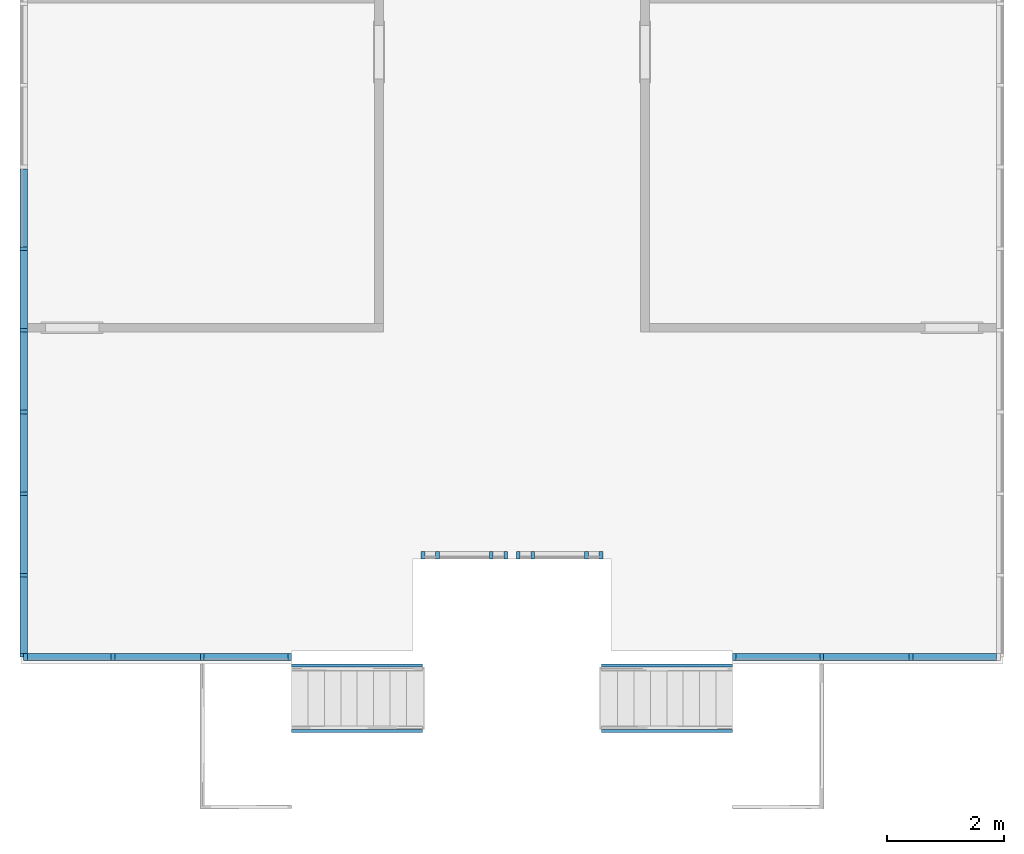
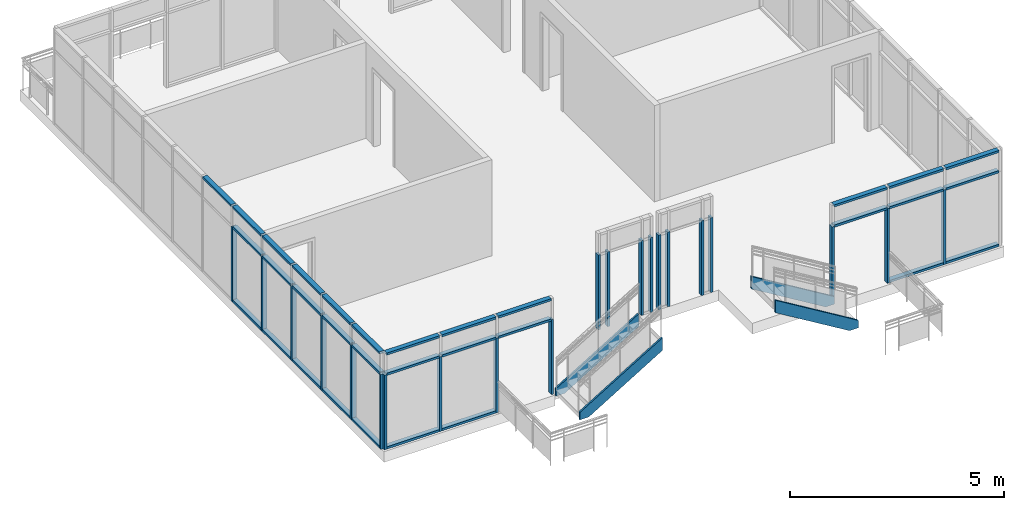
# One storey, part 1 of 11: 57 members, 6 elements without a shape of their own.
"""IFC2X3 building model written with IfcOpenShell, lengths in feet."""

from ifc_helpers import new_model, entity, si_unit, converted_unit, derived_unit, direction, frame, origin, origin_2d_with_axis, place, context, subcontext, project, spatial, polyline, rectangle, outline, extrude, source, transform, mapped, material, type_object, type_shapes, element, aggregate, save


model = new_model("IFC2X3")

# Units and contexts
model_context = context("Model", 3, precision=0.0001, world=origin(), true_north=direction((6.12303176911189e-17, 1.0)))
body_context = subcontext(model_context, "Body", "Model", "MODEL_VIEW")
ifc_project = project(units=[converted_unit("LENGTHUNIT", "FOOT", entity("IfcRatioMeasure", 0.3048), si_unit("LENGTHUNIT", "METRE"), dimensions=[1, 0, 0, 0, 0, 0, 0]), converted_unit("AREAUNIT", "SQUARE FOOT", entity("IfcRatioMeasure", 0.09290304), si_unit("AREAUNIT", "SQUARE_METRE"), dimensions=[2, 0, 0, 0, 0, 0, 0]), converted_unit("VOLUMEUNIT", "CUBIC FOOT", entity("IfcRatioMeasure", 0.028316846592), si_unit("VOLUMEUNIT", "CUBIC_METRE"), dimensions=[3, 0, 0, 0, 0, 0, 0]), converted_unit("PLANEANGLEUNIT", "DEGREE", entity("IfcRatioMeasure", 0.0174532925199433), si_unit("PLANEANGLEUNIT", "RADIAN"), dimensions=[0, 0, 0, 0, 0, 0, 0]), si_unit("MASSUNIT", "GRAM", prefix="KILO"), derived_unit("MASSDENSITYUNIT", [(si_unit("MASSUNIT", "GRAM", prefix="KILO"), 1), (si_unit("LENGTHUNIT", "METRE"), -3)]), si_unit("TIMEUNIT", "SECOND"), si_unit("FREQUENCYUNIT", "HERTZ"), si_unit("THERMODYNAMICTEMPERATUREUNIT", "DEGREE_CELSIUS"), derived_unit("THERMALTRANSMITTANCEUNIT", [(si_unit("MASSUNIT", "GRAM", prefix="KILO"), 1), (si_unit("THERMODYNAMICTEMPERATUREUNIT", "KELVIN"), -1), (si_unit("TIMEUNIT", "SECOND"), -3)]), derived_unit("VOLUMETRICFLOWRATEUNIT", [(si_unit("LENGTHUNIT", "METRE"), 3), (si_unit("TIMEUNIT", "SECOND"), -1)]), si_unit("ELECTRICCURRENTUNIT", "AMPERE"), si_unit("ELECTRICVOLTAGEUNIT", "VOLT"), si_unit("POWERUNIT", "WATT"), si_unit("FORCEUNIT", "NEWTON"), si_unit("ILLUMINANCEUNIT", "LUX"), si_unit("LUMINOUSFLUXUNIT", "LUMEN"), si_unit("LUMINOUSINTENSITYUNIT", "CANDELA"), derived_unit("USERDEFINED", [(si_unit("MASSUNIT", "GRAM", prefix="KILO"), -1), (si_unit("LENGTHUNIT", "METRE"), -2), (si_unit("TIMEUNIT", "SECOND"), 3), (si_unit("LUMINOUSFLUXUNIT", "LUMEN"), 1)]), derived_unit("LINEARVELOCITYUNIT", [(si_unit("LENGTHUNIT", "METRE"), 1), (si_unit("TIMEUNIT", "SECOND"), -1)]), si_unit("PRESSUREUNIT", "PASCAL"), derived_unit("USERDEFINED", [(si_unit("LENGTHUNIT", "METRE"), -2), (si_unit("MASSUNIT", "GRAM", prefix="KILO"), 1), (si_unit("TIMEUNIT", "SECOND"), -2)])], contexts=[model_context])

# Site, building, storey
site_placement = place(None, origin())
site = spatial("IfcSite", under=ifc_project, at=site_placement, Name="Default", CompositionType="ELEMENT")
building_placement = place(site_placement, origin())
building = spatial("IfcBuilding", under=site, at=building_placement, CompositionType="ELEMENT")
storey_placement = place(building_placement, frame((0.0, 0.0, 40.0)))
storey = spatial("IfcBuildingStorey", under=building, at=storey_placement, Name="L 7", CompositionType="ELEMENT", Elevation=39.9999999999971)

# Stair, members
stair_placement = place(storey_placement, origin())
stair = element("IfcStair", 1, at=stair_placement, inside=storey, Name="Assembled Stair:Stair", ObjectType="Assembled Stair:7\" max riser 11\" tread", ShapeType="NOTDEFINED")
member_type_1 = type_object("IfcMemberType", Name="Stringer:Stringer - 2\" Width", PredefinedType="STRINGER")
member_1_placement = place(stair_placement, origin())
member_1 = element("IfcMember", 2, at=member_1_placement, type_object=member_type_1, Name="Assembled Stair:Stair:191385 Stringer 1", ObjectType="Assembled Stair:7\" max riser 11\" tread", context=body_context, shape_type="SweptSolid", body=[
    extrude(outline(polyline([(-3.29811864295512, -0.519028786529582), (5.27689530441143, -0.519028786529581), (4.67083469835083, 0.480971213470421), (-2.99079942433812, 0.48097121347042), (-3.65881193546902, 0.0761151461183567), (-3.29811864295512, -0.519028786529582)])), frame((-43.2356053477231, -7.50364126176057, 1.96146201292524), z_axis=(0.0, 1.0, 0.0), x_axis=(0.855197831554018, 0.0, 0.518301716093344)), (0.0, 0.0, 1.0), 0.166666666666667),
])
member_2_placement = place(stair_placement, origin())
member_2 = element("IfcMember", 3, at=member_2_placement, type_object=member_type_1, Name="Assembled Stair:Stair:191385 Stringer 2", ObjectType="Assembled Stair:7\" max riser 11\" tread", context=body_context, shape_type="SweptSolid", body=[
    extrude(outline(polyline([(-3.29811864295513, -0.519028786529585), (5.27689530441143, -0.519028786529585), (4.67083469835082, 0.480971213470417), (-2.99079942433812, 0.480971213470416), (-3.65881193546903, 0.0761151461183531), (-3.29811864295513, -0.519028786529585)])), frame((-43.2356053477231, -11.1703079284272, 1.96146201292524), z_axis=(0.0, 1.0, 0.0), x_axis=(0.855197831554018, 0.0, 0.518301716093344)), (0.0, 0.0, 1.0), 0.166666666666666),
])
member_3_placement = place(stair_placement, origin())
member_3 = element("IfcMember", 4, at=member_3_placement, type_object=member_type_1, Name="Assembled Stair:Stair:191385 Stringer 3", ObjectType="Assembled Stair:7\" max riser 11\" tread", context=body_context, shape_type="SweptSolid", body=[
    extrude(outline(polyline([(-3.08955742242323, -1.96146201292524), (-2.30843697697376, -1.96146201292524), (4.24377591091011, 2.00957610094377), (4.24377591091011, 3.17889618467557), (-3.08955742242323, -1.26554825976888), (-3.08955742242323, -1.96146201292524)])), frame((-24.7480535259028, -7.50364126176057, 1.96146201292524), z_axis=(0.0, 1.0, 0.0), x_axis=(-1.0, 0.0, 0.0)), (0.0, 0.0, 1.0), 0.166666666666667),
])
member_4_placement = place(stair_placement, origin())
member_4 = element("IfcMember", 5, at=member_4_placement, type_object=member_type_1, Name="Assembled Stair:Stair:191385 Stringer 4", ObjectType="Assembled Stair:7\" max riser 11\" tread", context=body_context, shape_type="SweptSolid", body=[
    extrude(outline(polyline([(-3.08955742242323, -1.96146201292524), (-2.30843697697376, -1.96146201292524), (4.24377591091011, 2.00957610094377), (4.24377591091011, 3.17889618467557), (-3.08955742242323, -1.26554825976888), (-3.08955742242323, -1.96146201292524)])), frame((-24.7480535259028, -11.1703079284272, 1.96146201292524), z_axis=(0.0, 1.0, 0.0), x_axis=(-1.0, 0.0, 0.0)), (0.0, 0.0, 1.0), 0.166666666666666),
])
aggregate(stair, [member_1, member_2, member_3, member_4])

# Curtain wall, members
curtain_wall_type = type_object("IfcCurtainWallType", Name="Curtain Wall:Storefront 2", PredefinedType="NOTDEFINED")
curtain_wall_1_placement = place(storey_placement, frame((0.0, 0.0, -40.0)))
curtain_wall_1 = element("IfcCurtainWall", 6, at=curtain_wall_1_placement, inside=storey, type_object=curtain_wall_type, Name="Curtain Wall:Storefront 2", ObjectType="Curtain Wall:Storefront 2")
ifc_material = material(Name="Aluminum")
member_type_2 = type_object("IfcMemberType", Name="2.5\" x 5\" rectangular", PredefinedType="MEMBER")
shared_shape_1 = source(origin(), body_context, "Body", "SweptSolid", [
    extrude(rectangle(XDim=0.416666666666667, YDim=0.208333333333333, at=origin_2d_with_axis()), frame((-0.104166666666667, 0.0, -4.6875), z_axis=(0.0, 0.0, 1.0), x_axis=(0.0, -1.0, 0.0)), (0.0, 0.0, 1.0), 4.6875),
])
type_shapes(member_type_2, [shared_shape_1])
member_5_placement = place(storey_placement, frame((-61.1168294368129, -6.94114126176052, 9.0), z_axis=(-1.0, 0.0, 0.0), x_axis=(0.0, 0.0, 1.0)))
member_5 = element("IfcMember", 7, at=member_5_placement, type_object=member_type_2, material=ifc_material, Name="Rectangular Mullion:2.5\" x 5\" rectangular", ObjectType="2.5\" x 5\" rectangular", context=body_context, shape_type="MappedRepresentation", body=[
    mapped(shared_shape_1, transform((0.0, 0.0, 0.0), scale=1.0)),
])
member_6_placement = place(storey_placement, frame((-51.2209961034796, -6.94114126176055, 9.0), z_axis=(-1.0, 0.0, 0.0), x_axis=(0.0, 0.0, 1.0)))
member_6 = element("IfcMember", 8, at=member_6_placement, type_object=member_type_2, material=ifc_material, Name="Rectangular Mullion:2.5\" x 5\" rectangular", ObjectType="2.5\" x 5\" rectangular", context=body_context, shape_type="MappedRepresentation", body=[
    mapped(shared_shape_1, transform((0.0, 0.0, 0.0), scale=1.0)),
])

curtain_wall_2_placement = place(storey_placement, frame((0.0, 0.0, -40.0)))
curtain_wall_2 = element("IfcCurtainWall", 9, at=curtain_wall_2_placement, inside=storey, type_object=curtain_wall_type, Name="Curtain Wall:Storefront 2", ObjectType="Curtain Wall:Storefront 2")
member_7_placement = place(storey_placement, frame((-21.4501627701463, -6.94114126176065, 9.0), z_axis=(-1.0, 0.0, 0.0), x_axis=(0.0, 0.0, 1.0)))
member_7 = element("IfcMember", 10, at=member_7_placement, type_object=member_type_2, material=ifc_material, Name="Rectangular Mullion:2.5\" x 5\" rectangular", ObjectType="2.5\" x 5\" rectangular", context=body_context, shape_type="MappedRepresentation", body=[
    mapped(shared_shape_1, transform((0.0, 0.0, 0.0), scale=1.0)),
])
member_8_placement = place(storey_placement, frame((-11.5543294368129, -6.94114126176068, 9.0), z_axis=(-1.0, 0.0, 0.0), x_axis=(0.0, 0.0, 1.0)))
member_8 = element("IfcMember", 11, at=member_8_placement, type_object=member_type_2, material=ifc_material, Name="Rectangular Mullion:2.5\" x 5\" rectangular", ObjectType="2.5\" x 5\" rectangular", context=body_context, shape_type="MappedRepresentation", body=[
    mapped(shared_shape_1, transform((0.0, 0.0, 0.0), scale=1.0)),
])

# Member
member_type_3 = type_object("IfcMemberType", Name="2.5\" x 5\" rectangular", PredefinedType="MEMBER")
shared_shape_2 = source(origin(), body_context, "Body", "SweptSolid", [
    extrude(rectangle(XDim=0.416666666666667, YDim=0.208333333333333, at=origin_2d_with_axis()), frame((-0.104166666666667, 0.0, -4.6875), z_axis=(0.0, 0.0, 1.0), x_axis=(0.0, -1.0, 0.0)), (0.0, 0.0, 1.0), 4.6875),
])
type_shapes(member_type_3, [shared_shape_2])
member_9_placement = place(storey_placement, frame((-56.429329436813, -6.94114126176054, 0.0), z_axis=(1.0, 0.0, 0.0), x_axis=(0.0, 0.0, -1.0)))
member_9 = element("IfcMember", 12, at=member_9_placement, type_object=member_type_3, material=ifc_material, Name="Rectangular Mullion:2.5\" x 5\" rectangular", ObjectType="2.5\" x 5\" rectangular", context=body_context, shape_type="MappedRepresentation", body=[
    mapped(shared_shape_2, transform((0.0, 0.0, 0.0), scale=1.0)),
])

member_10_placement = place(storey_placement, frame((-6.86682943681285, -6.94114126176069, 0.0), z_axis=(1.0, 0.0, 0.0), x_axis=(0.0, 0.0, -1.0)))
member_10 = element("IfcMember", 13, at=member_10_placement, type_object=member_type_3, material=ifc_material, Name="Rectangular Mullion:2.5\" x 5\" rectangular", ObjectType="2.5\" x 5\" rectangular", context=body_context, shape_type="MappedRepresentation", body=[
    mapped(shared_shape_2, transform((0.0, 0.0, 0.0), scale=1.0)),
])

member_type_4 = type_object("IfcMemberType", Name="2.5\" x 5\" rectangular", PredefinedType="MEMBER")
shared_shape_3 = source(origin(), body_context, "Body", "SweptSolid", [
    extrude(rectangle(XDim=0.416666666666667, YDim=0.208333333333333, at=origin_2d_with_axis()), frame((0.0, 0.0, -4.6875), z_axis=(0.0, 0.0, 1.0), x_axis=(0.0, -1.0, 0.0)), (0.0, 0.0, 1.0), 4.6875),
])
type_shapes(member_type_4, [shared_shape_3])
member_11_placement = place(storey_placement, frame((-51.2209961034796, -6.94114126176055, 7.0), z_axis=(-1.0, 0.0, 0.0), x_axis=(0.0, 0.0, 1.0)))
member_11 = element("IfcMember", 14, at=member_11_placement, type_object=member_type_4, material=ifc_material, Name="Rectangular Mullion:2.5\" x 5\" rectangular", ObjectType="2.5\" x 5\" rectangular", context=body_context, shape_type="MappedRepresentation", body=[
    mapped(shared_shape_3, transform((0.0, 0.0, 0.0), scale=1.0)),
])

member_12_placement = place(storey_placement, frame((-61.1168294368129, -6.94114126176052, 7.0), z_axis=(-1.0, 0.0, 0.0), x_axis=(0.0, 0.0, 1.0)))
member_12 = element("IfcMember", 15, at=member_12_placement, type_object=member_type_4, material=ifc_material, Name="Rectangular Mullion:2.5\" x 5\" rectangular", ObjectType="2.5\" x 5\" rectangular", context=body_context, shape_type="MappedRepresentation", body=[
    mapped(shared_shape_3, transform((0.0, 0.0, 0.0), scale=1.0)),
])

member_13_placement = place(storey_placement, frame((-11.5543294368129, -6.94114126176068, 7.0), z_axis=(-1.0, 0.0, 0.0), x_axis=(0.0, 0.0, 1.0)))
member_13 = element("IfcMember", 16, at=member_13_placement, type_object=member_type_4, material=ifc_material, Name="Rectangular Mullion:2.5\" x 5\" rectangular", ObjectType="2.5\" x 5\" rectangular", context=body_context, shape_type="MappedRepresentation", body=[
    mapped(shared_shape_3, transform((0.0, 0.0, 0.0), scale=1.0)),
])

member_14_placement = place(storey_placement, frame((-21.4501627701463, -6.94114126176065, 7.0), z_axis=(-1.0, 0.0, 0.0), x_axis=(0.0, 0.0, 1.0)))
member_14 = element("IfcMember", 17, at=member_14_placement, type_object=member_type_4, material=ifc_material, Name="Rectangular Mullion:2.5\" x 5\" rectangular", ObjectType="2.5\" x 5\" rectangular", context=body_context, shape_type="MappedRepresentation", body=[
    mapped(shared_shape_3, transform((0.0, 0.0, 0.0), scale=1.0)),
])

member_type_5 = type_object("IfcMemberType", Name="2.5\" x 5\" rectangular", PredefinedType="MEMBER")
shared_shape_4 = source(origin(), body_context, "Body", "SweptSolid", [
    extrude(rectangle(XDim=0.416666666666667, YDim=0.208333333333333, at=origin_2d_with_axis()), frame((-0.104166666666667, 0.0, -4.79166666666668), z_axis=(0.0, 0.0, 1.0), x_axis=(0.0, -1.0, 0.0)), (0.0, 0.0, 1.0), 4.79166666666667),
])
type_shapes(member_type_5, [shared_shape_4])
member_15_placement = place(storey_placement, frame((-56.2209961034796, -6.94114126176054, 9.0), z_axis=(-1.0, 0.0, 0.0), x_axis=(0.0, 0.0, 1.0)))
member_15 = element("IfcMember", 18, at=member_15_placement, type_object=member_type_5, material=ifc_material, Name="Rectangular Mullion:2.5\" x 5\" rectangular", ObjectType="2.5\" x 5\" rectangular", context=body_context, shape_type="MappedRepresentation", body=[
    mapped(shared_shape_4, transform((0.0, 0.0, 0.0), scale=1.0)),
])

member_16_placement = place(storey_placement, frame((-16.554329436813, -6.94114126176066, 9.0), z_axis=(-1.0, 0.0, 0.0), x_axis=(0.0, 0.0, 1.0)))
member_16 = element("IfcMember", 19, at=member_16_placement, type_object=member_type_5, material=ifc_material, Name="Rectangular Mullion:2.5\" x 5\" rectangular", ObjectType="2.5\" x 5\" rectangular", context=body_context, shape_type="MappedRepresentation", body=[
    mapped(shared_shape_4, transform((0.0, 0.0, 0.0), scale=1.0)),
])

member_type_6 = type_object("IfcMemberType", Name="2.5\" x 5\" rectangular", PredefinedType="MEMBER")
shared_shape_5 = source(origin(), body_context, "Body", "SweptSolid", [
    extrude(rectangle(XDim=0.416666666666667, YDim=0.208333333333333, at=origin_2d_with_axis()), frame((-0.104166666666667, 0.0, -7.0), z_axis=(0.0, 0.0, 1.0), x_axis=(0.0, -1.0, 0.0)), (0.0, 0.0, 1.0), 7.0),
])
type_shapes(member_type_6, [shared_shape_5])
member_17_placement = place(storey_placement, frame((-61.3251627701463, -6.94114126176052, 0.0), z_axis=(0.0, 0.0, -1.0), x_axis=(-1.0, 0.0, 0.0)))
member_17 = element("IfcMember", 20, at=member_17_placement, type_object=member_type_6, material=ifc_material, Name="Rectangular Mullion:2.5\" x 5\" rectangular", ObjectType="2.5\" x 5\" rectangular", context=body_context, shape_type="MappedRepresentation", body=[
    mapped(shared_shape_5, transform((0.0, 0.0, 0.0), scale=1.0)),
])

# Curtain wall, member
curtain_wall_3_placement = place(storey_placement, frame((0.0, 0.0, -40.0)))
curtain_wall_3 = element("IfcCurtainWall", 21, at=curtain_wall_3_placement, inside=storey, type_object=curtain_wall_type, Name="Curtain Wall:Storefront 2", ObjectType="Curtain Wall:Storefront 2")
member_18_placement = place(storey_placement, frame((-39.0751627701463, -1.23280792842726, 0.0), z_axis=(0.0, 0.0, -1.0), x_axis=(-1.0, 0.0, 0.0)))
member_18 = element("IfcMember", 22, at=member_18_placement, type_object=member_type_6, material=ifc_material, Name="Rectangular Mullion:2.5\" x 5\" rectangular", ObjectType="2.5\" x 5\" rectangular", context=body_context, shape_type="MappedRepresentation", body=[
    mapped(shared_shape_5, transform((0.0, 0.0, 0.0), scale=1.0)),
])

curtain_wall_4_placement = place(storey_placement, frame((0.0, 0.0, -40.0)))
curtain_wall_4 = element("IfcCurtainWall", 23, at=curtain_wall_4_placement, inside=storey, type_object=curtain_wall_type, Name="Curtain Wall:Storefront 2", ObjectType="Curtain Wall:Storefront 2")
member_19_placement = place(storey_placement, frame((-33.7418294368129, -1.23280792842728, 0.0), z_axis=(0.0, 0.0, -1.0), x_axis=(-1.0, 0.0, 0.0)))
member_19 = element("IfcMember", 24, at=member_19_placement, type_object=member_type_6, material=ifc_material, Name="Rectangular Mullion:2.5\" x 5\" rectangular", ObjectType="2.5\" x 5\" rectangular", context=body_context, shape_type="MappedRepresentation", body=[
    mapped(shared_shape_5, transform((0.0, 0.0, 0.0), scale=1.0)),
])

# Member
member_type_7 = type_object("IfcMemberType", Name="2.5\" x 5\" rectangular", PredefinedType="MEMBER")
shared_shape_6 = source(origin(), body_context, "Body", "SweptSolid", [
    extrude(rectangle(XDim=0.416666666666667, YDim=0.208333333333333, at=origin_2d_with_axis()), frame((-0.104166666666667, 0.0, -7.0), z_axis=(0.0, 0.0, 1.0), x_axis=(0.0, -1.0, 0.0)), (0.0, 0.0, 1.0), 7.0),
])
type_shapes(member_type_7, [shared_shape_6])
member_20_placement = place(storey_placement, frame((-34.2418294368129, -1.23280792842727, 7.0)))
member_20 = element("IfcMember", 25, at=member_20_placement, type_object=member_type_7, material=ifc_material, Name="Rectangular Mullion:2.5\" x 5\" rectangular", ObjectType="2.5\" x 5\" rectangular", context=body_context, shape_type="MappedRepresentation", body=[
    mapped(shared_shape_6, transform((0.0, 0.0, 0.0), scale=1.0)),
])

member_21_placement = place(storey_placement, frame((-28.9084961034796, -1.23280792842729, 7.0)))
member_21 = element("IfcMember", 26, at=member_21_placement, type_object=member_type_7, material=ifc_material, Name="Rectangular Mullion:2.5\" x 5\" rectangular", ObjectType="2.5\" x 5\" rectangular", context=body_context, shape_type="MappedRepresentation", body=[
    mapped(shared_shape_6, transform((0.0, 0.0, 0.0), scale=1.0)),
])

# Curtain wall, member
curtain_wall_5_placement = place(storey_placement, frame((0.0, 0.0, -40.0)))
curtain_wall_5 = element("IfcCurtainWall", 27, at=curtain_wall_5_placement, inside=storey, type_object=curtain_wall_type, Name="Curtain Wall:Storefront 2", ObjectType="Curtain Wall:Storefront 2")
member_22_placement = place(storey_placement, frame((-61.3251627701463, -6.94114126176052, 7.0), z_axis=(0.0, 0.0, 1.0), x_axis=(0.0, -1.0, 0.0)))
member_22 = element("IfcMember", 28, at=member_22_placement, type_object=member_type_7, material=ifc_material, Name="Rectangular Mullion:2.5\" x 5\" rectangular", ObjectType="2.5\" x 5\" rectangular", context=body_context, shape_type="MappedRepresentation", body=[
    mapped(shared_shape_6, transform((0.0, 0.0, 0.0), scale=1.0)),
])

# Member
member_type_8 = type_object("IfcMemberType", Name="2.5\" x 5\" rectangular", PredefinedType="MEMBER")
shared_shape_7 = source(origin(), body_context, "Body", "SweptSolid", [
    extrude(rectangle(XDim=0.416666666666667, YDim=0.208333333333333, at=origin_2d_with_axis()), frame((0.0, 0.0, -4.79166666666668), z_axis=(0.0, 0.0, 1.0), x_axis=(0.0, -1.0, 0.0)), (0.0, 0.0, 1.0), 4.79166666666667),
])
type_shapes(member_type_8, [shared_shape_7])
member_23_placement = place(storey_placement, frame((-56.2209961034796, -6.94114126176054, 7.0), z_axis=(-1.0, 0.0, 0.0), x_axis=(0.0, 0.0, 1.0)))
member_23 = element("IfcMember", 29, at=member_23_placement, type_object=member_type_8, material=ifc_material, Name="Rectangular Mullion:2.5\" x 5\" rectangular", ObjectType="2.5\" x 5\" rectangular", context=body_context, shape_type="MappedRepresentation", body=[
    mapped(shared_shape_7, transform((0.0, 0.0, 0.0), scale=1.0)),
])

member_24_placement = place(storey_placement, frame((-16.554329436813, -6.94114126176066, 7.0), z_axis=(-1.0, 0.0, 0.0), x_axis=(0.0, 0.0, 1.0)))
member_24 = element("IfcMember", 30, at=member_24_placement, type_object=member_type_8, material=ifc_material, Name="Rectangular Mullion:2.5\" x 5\" rectangular", ObjectType="2.5\" x 5\" rectangular", context=body_context, shape_type="MappedRepresentation", body=[
    mapped(shared_shape_7, transform((0.0, 0.0, 0.0), scale=1.0)),
])

member_type_9 = type_object("IfcMemberType", Name="2.5\" x 5\" rectangular", PredefinedType="MEMBER")
shared_shape_8 = source(origin(), body_context, "Body", "SweptSolid", [
    extrude(rectangle(XDim=0.416666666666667, YDim=0.208333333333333, at=origin_2d_with_axis()), frame((0.0, 0.0, -7.0), z_axis=(0.0, 0.0, 1.0), x_axis=(0.0, -1.0, 0.0)), (0.0, 0.0, 1.0), 7.0),
])
type_shapes(member_type_9, [shared_shape_8])
member_25_placement = place(storey_placement, frame((-51.3251627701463, -6.94114126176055, 0.0), z_axis=(0.0, 0.0, -1.0), x_axis=(-1.0, 0.0, 0.0)))
member_25 = element("IfcMember", 31, at=member_25_placement, type_object=member_type_9, material=ifc_material, Name="Rectangular Mullion:2.5\" x 5\" rectangular", ObjectType="2.5\" x 5\" rectangular", context=body_context, shape_type="MappedRepresentation", body=[
    mapped(shared_shape_8, transform((0.0, 0.0, 0.0), scale=1.0)),
])

member_26_placement = place(storey_placement, frame((-56.3251627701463, -6.94114126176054, 0.0), z_axis=(0.0, 0.0, -1.0), x_axis=(-1.0, 0.0, 0.0)))
member_26 = element("IfcMember", 32, at=member_26_placement, type_object=member_type_9, material=ifc_material, Name="Rectangular Mullion:2.5\" x 5\" rectangular", ObjectType="2.5\" x 5\" rectangular", context=body_context, shape_type="MappedRepresentation", body=[
    mapped(shared_shape_8, transform((0.0, 0.0, 0.0), scale=1.0)),
])

member_27_placement = place(storey_placement, frame((-11.6584961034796, -6.94114126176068, 0.0), z_axis=(0.0, 0.0, -1.0), x_axis=(-1.0, 0.0, 0.0)))
member_27 = element("IfcMember", 33, at=member_27_placement, type_object=member_type_9, material=ifc_material, Name="Rectangular Mullion:2.5\" x 5\" rectangular", ObjectType="2.5\" x 5\" rectangular", context=body_context, shape_type="MappedRepresentation", body=[
    mapped(shared_shape_8, transform((0.0, 0.0, 0.0), scale=1.0)),
])

member_28_placement = place(storey_placement, frame((-16.6584961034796, -6.94114126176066, 0.0), z_axis=(0.0, 0.0, -1.0), x_axis=(-1.0, 0.0, 0.0)))
member_28 = element("IfcMember", 34, at=member_28_placement, type_object=member_type_9, material=ifc_material, Name="Rectangular Mullion:2.5\" x 5\" rectangular", ObjectType="2.5\" x 5\" rectangular", context=body_context, shape_type="MappedRepresentation", body=[
    mapped(shared_shape_8, transform((0.0, 0.0, 0.0), scale=1.0)),
])

member_29_placement = place(storey_placement, frame((-35.1584961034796, -1.23280792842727, 0.0), z_axis=(0.0, 0.0, -1.0), x_axis=(-1.0, 0.0, 0.0)))
member_29 = element("IfcMember", 35, at=member_29_placement, type_object=member_type_9, material=ifc_material, Name="Rectangular Mullion:2.5\" x 5\" rectangular", ObjectType="2.5\" x 5\" rectangular", context=body_context, shape_type="MappedRepresentation", body=[
    mapped(shared_shape_8, transform((0.0, 0.0, 0.0), scale=1.0)),
])

member_30_placement = place(storey_placement, frame((-38.1584961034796, -1.23280792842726, 0.0), z_axis=(0.0, 0.0, -1.0), x_axis=(-1.0, 0.0, 0.0)))
member_30 = element("IfcMember", 36, at=member_30_placement, type_object=member_type_9, material=ifc_material, Name="Rectangular Mullion:2.5\" x 5\" rectangular", ObjectType="2.5\" x 5\" rectangular", context=body_context, shape_type="MappedRepresentation", body=[
    mapped(shared_shape_8, transform((0.0, 0.0, 0.0), scale=1.0)),
])

aggregate(curtain_wall_3, [member_18, member_20, member_29, member_30])

member_31_placement = place(storey_placement, frame((-29.8251627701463, -1.23280792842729, 0.0), z_axis=(0.0, 0.0, -1.0), x_axis=(-1.0, 0.0, 0.0)))
member_31 = element("IfcMember", 37, at=member_31_placement, type_object=member_type_9, material=ifc_material, Name="Rectangular Mullion:2.5\" x 5\" rectangular", ObjectType="2.5\" x 5\" rectangular", context=body_context, shape_type="MappedRepresentation", body=[
    mapped(shared_shape_8, transform((0.0, 0.0, 0.0), scale=1.0)),
])

member_32_placement = place(storey_placement, frame((-32.8251627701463, -1.23280792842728, 0.0), z_axis=(0.0, 0.0, -1.0), x_axis=(-1.0, 0.0, 0.0)))
member_32 = element("IfcMember", 38, at=member_32_placement, type_object=member_type_9, material=ifc_material, Name="Rectangular Mullion:2.5\" x 5\" rectangular", ObjectType="2.5\" x 5\" rectangular", context=body_context, shape_type="MappedRepresentation", body=[
    mapped(shared_shape_8, transform((0.0, 0.0, 0.0), scale=1.0)),
])

aggregate(curtain_wall_4, [member_19, member_21, member_31, member_32])

member_33_placement = place(storey_placement, frame((-61.3251627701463, -2.36917156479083, 0.0), z_axis=(0.0, 0.0, -1.0), x_axis=(0.0, 1.0, 0.0)))
member_33 = element("IfcMember", 39, at=member_33_placement, type_object=member_type_9, material=ifc_material, Name="Rectangular Mullion:2.5\" x 5\" rectangular", ObjectType="2.5\" x 5\" rectangular", context=body_context, shape_type="MappedRepresentation", body=[
    mapped(shared_shape_8, transform((0.0, 0.0, 0.0), scale=1.0)),
])

member_34_placement = place(storey_placement, frame((-61.3251627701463, 2.20279813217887, 0.0), z_axis=(0.0, 0.0, -1.0), x_axis=(0.0, 1.0, 0.0)))
member_34 = element("IfcMember", 40, at=member_34_placement, type_object=member_type_9, material=ifc_material, Name="Rectangular Mullion:2.5\" x 5\" rectangular", ObjectType="2.5\" x 5\" rectangular", context=body_context, shape_type="MappedRepresentation", body=[
    mapped(shared_shape_8, transform((0.0, 0.0, 0.0), scale=1.0)),
])

member_35_placement = place(storey_placement, frame((-61.3251627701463, 6.77476782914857, 0.0), z_axis=(0.0, 0.0, -1.0), x_axis=(0.0, 1.0, 0.0)))
member_35 = element("IfcMember", 41, at=member_35_placement, type_object=member_type_9, material=ifc_material, Name="Rectangular Mullion:2.5\" x 5\" rectangular", ObjectType="2.5\" x 5\" rectangular", context=body_context, shape_type="MappedRepresentation", body=[
    mapped(shared_shape_8, transform((0.0, 0.0, 0.0), scale=1.0)),
])

member_36_placement = place(storey_placement, frame((-61.3251627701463, 11.3467375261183, 0.0), z_axis=(0.0, 0.0, -1.0), x_axis=(0.0, 1.0, 0.0)))
member_36 = element("IfcMember", 42, at=member_36_placement, type_object=member_type_9, material=ifc_material, Name="Rectangular Mullion:2.5\" x 5\" rectangular", ObjectType="2.5\" x 5\" rectangular", context=body_context, shape_type="MappedRepresentation", body=[
    mapped(shared_shape_8, transform((0.0, 0.0, 0.0), scale=1.0)),
])

member_37_placement = place(storey_placement, frame((-61.3251627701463, 15.918707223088, 0.0), z_axis=(0.0, 0.0, -1.0), x_axis=(0.0, 1.0, 0.0)))
member_37 = element("IfcMember", 43, at=member_37_placement, type_object=member_type_9, material=ifc_material, Name="Rectangular Mullion:2.5\" x 5\" rectangular", ObjectType="2.5\" x 5\" rectangular", context=body_context, shape_type="MappedRepresentation", body=[
    mapped(shared_shape_8, transform((0.0, 0.0, 0.0), scale=1.0)),
])

member_type_10 = type_object("IfcMemberType", Name="2.5\" x 5\" rectangular", PredefinedType="MEMBER")
shared_shape_9 = source(origin(), body_context, "Body", "SweptSolid", [
    extrude(rectangle(XDim=0.416666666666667, YDim=0.208333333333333, at=origin_2d_with_axis()), frame((-0.104166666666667, 0.0, -7.0), z_axis=(0.0, 0.0, 1.0), x_axis=(0.0, -1.0, 0.0)), (0.0, 0.0, 1.0), 7.0),
])
type_shapes(member_type_10, [shared_shape_9])
member_38_placement = place(storey_placement, frame((-46.3251627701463, -6.94114126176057, 7.0)))
member_38 = element("IfcMember", 44, at=member_38_placement, type_object=member_type_10, material=ifc_material, Name="Rectangular Mullion:2.5\" x 5\" rectangular", ObjectType="2.5\" x 5\" rectangular", context=body_context, shape_type="MappedRepresentation", body=[
    mapped(shared_shape_9, transform((0.0, 0.0, 0.0), scale=1.0)),
])

member_type_11 = type_object("IfcMemberType", Name="2.5\" x 5\" rectangular", PredefinedType="MEMBER")
shared_shape_10 = source(origin(), body_context, "Body", "SweptSolid", [
    extrude(rectangle(XDim=0.416666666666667, YDim=0.208333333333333, at=origin_2d_with_axis()), frame((-0.104166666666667, 0.0, -4.79166666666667), z_axis=(0.0, 0.0, 1.0), x_axis=(0.0, -1.0, 0.0)), (0.0, 0.0, 1.0), 4.79166666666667),
])
type_shapes(member_type_11, [shared_shape_10])
member_39_placement = place(storey_placement, frame((-51.4293294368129, -6.94114126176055, 0.0), z_axis=(1.0, 0.0, 0.0), x_axis=(0.0, 0.0, -1.0)))
member_39 = element("IfcMember", 45, at=member_39_placement, type_object=member_type_11, material=ifc_material, Name="Rectangular Mullion:2.5\" x 5\" rectangular", ObjectType="2.5\" x 5\" rectangular", context=body_context, shape_type="MappedRepresentation", body=[
    mapped(shared_shape_10, transform((0.0, 0.0, 0.0), scale=1.0)),
])

aggregate(curtain_wall_1, [member_5, member_6, member_15, member_9, member_17, member_38, member_11, member_23, member_12, member_25, member_26, member_39])

member_40_placement = place(storey_placement, frame((-11.7626627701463, -6.94114126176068, 0.0), z_axis=(1.0, 0.0, 0.0), x_axis=(0.0, 0.0, -1.0)))
member_40 = element("IfcMember", 46, at=member_40_placement, type_object=member_type_11, material=ifc_material, Name="Rectangular Mullion:2.5\" x 5\" rectangular", ObjectType="2.5\" x 5\" rectangular", context=body_context, shape_type="MappedRepresentation", body=[
    mapped(shared_shape_10, transform((0.0, 0.0, 0.0), scale=1.0)),
])

member_type_12 = type_object("IfcMemberType", Name="2.5\" x 5\" rectangular", PredefinedType="MEMBER")
shared_shape_11 = source(origin(), body_context, "Body", "SweptSolid", [
    extrude(rectangle(XDim=0.416666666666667, YDim=0.208333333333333, at=origin_2d_with_axis()), frame((-0.104166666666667, 0.0, -7.0), z_axis=(0.0, 0.0, 1.0), x_axis=(0.0, -1.0, 0.0)), (0.0, 0.0, 1.0), 7.0),
])
type_shapes(member_type_12, [shared_shape_11])
member_41_placement = place(storey_placement, frame((-21.6584961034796, -6.94114126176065, 0.0), z_axis=(0.0, 0.0, -1.0), x_axis=(-1.0, 0.0, 0.0)))
member_41 = element("IfcMember", 47, at=member_41_placement, type_object=member_type_12, material=ifc_material, Name="Rectangular Mullion:2.5\" x 5\" rectangular", ObjectType="2.5\" x 5\" rectangular", context=body_context, shape_type="MappedRepresentation", body=[
    mapped(shared_shape_11, transform((0.0, 0.0, 0.0), scale=1.0)),
])

aggregate(curtain_wall_2, [member_7, member_8, member_16, member_10, member_41, member_13, member_24, member_14, member_27, member_28, member_40])

member_type_13 = type_object("IfcMemberType", Name="2.5\" x 5\" rectangular", PredefinedType="MEMBER")
shared_shape_12 = source(origin(), body_context, "Body", "SweptSolid", [
    extrude(rectangle(XDim=0.416666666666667, YDim=0.208333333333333, at=origin_2d_with_axis()), frame((-0.104166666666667, 0.0, -4.25946969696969), z_axis=(0.0, 0.0, 1.0), x_axis=(0.0, -1.0, 0.0)), (0.0, 0.0, 1.0), 4.2594696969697),
])
type_shapes(member_type_13, [shared_shape_12])
member_42_placement = place(storey_placement, frame((-61.3251627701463, -2.47333823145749, 9.0), z_axis=(0.0, 1.0, 0.0), x_axis=(0.0, 0.0, 1.0)))
member_42 = element("IfcMember", 48, at=member_42_placement, type_object=member_type_13, material=ifc_material, Name="Rectangular Mullion:2.5\" x 5\" rectangular", ObjectType="2.5\" x 5\" rectangular", context=body_context, shape_type="MappedRepresentation", body=[
    mapped(shared_shape_12, transform((0.0, 0.0, 0.0), scale=1.0)),
])

member_type_14 = type_object("IfcMemberType", Name="2.5\" x 5\" rectangular", PredefinedType="MEMBER")
shared_shape_13 = source(origin(), body_context, "Body", "SweptSolid", [
    extrude(rectangle(XDim=0.416666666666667, YDim=0.208333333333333, at=origin_2d_with_axis()), frame((-0.104166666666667, 0.0, -4.36363636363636), z_axis=(0.0, 0.0, 1.0), x_axis=(0.0, -1.0, 0.0)), (0.0, 0.0, 1.0), 4.36363636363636),
])
type_shapes(member_type_14, [shared_shape_13])
member_43_placement = place(storey_placement, frame((-61.3251627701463, 2.0986314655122, 9.0), z_axis=(0.0, 1.0, 0.0), x_axis=(0.0, 0.0, 1.0)))
member_43 = element("IfcMember", 49, at=member_43_placement, type_object=member_type_14, material=ifc_material, Name="Rectangular Mullion:2.5\" x 5\" rectangular", ObjectType="2.5\" x 5\" rectangular", context=body_context, shape_type="MappedRepresentation", body=[
    mapped(shared_shape_13, transform((0.0, 0.0, 0.0), scale=1.0)),
])

member_44_placement = place(storey_placement, frame((-61.3251627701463, 6.6706011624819, 9.0), z_axis=(0.0, 1.0, 0.0), x_axis=(0.0, 0.0, 1.0)))
member_44 = element("IfcMember", 50, at=member_44_placement, type_object=member_type_14, material=ifc_material, Name="Rectangular Mullion:2.5\" x 5\" rectangular", ObjectType="2.5\" x 5\" rectangular", context=body_context, shape_type="MappedRepresentation", body=[
    mapped(shared_shape_13, transform((0.0, 0.0, 0.0), scale=1.0)),
])

member_45_placement = place(storey_placement, frame((-61.3251627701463, 11.2425708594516, 9.0), z_axis=(0.0, 1.0, 0.0), x_axis=(0.0, 0.0, 1.0)))
member_45 = element("IfcMember", 51, at=member_45_placement, type_object=member_type_14, material=ifc_material, Name="Rectangular Mullion:2.5\" x 5\" rectangular", ObjectType="2.5\" x 5\" rectangular", context=body_context, shape_type="MappedRepresentation", body=[
    mapped(shared_shape_13, transform((0.0, 0.0, 0.0), scale=1.0)),
])

member_46_placement = place(storey_placement, frame((-61.3251627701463, 15.8145405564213, 9.0), z_axis=(0.0, 1.0, 0.0), x_axis=(0.0, 0.0, 1.0)))
member_46 = element("IfcMember", 52, at=member_46_placement, type_object=member_type_14, material=ifc_material, Name="Rectangular Mullion:2.5\" x 5\" rectangular", ObjectType="2.5\" x 5\" rectangular", context=body_context, shape_type="MappedRepresentation", body=[
    mapped(shared_shape_13, transform((0.0, 0.0, 0.0), scale=1.0)),
])

member_47_placement = place(storey_placement, frame((-61.3251627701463, 20.386510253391, 9.0), z_axis=(0.0, 1.0, 0.0), x_axis=(0.0, 0.0, 1.0)))
member_47 = element("IfcMember", 53, at=member_47_placement, type_object=member_type_14, material=ifc_material, Name="Rectangular Mullion:2.5\" x 5\" rectangular", ObjectType="2.5\" x 5\" rectangular", context=body_context, shape_type="MappedRepresentation", body=[
    mapped(shared_shape_13, transform((0.0, 0.0, 0.0), scale=1.0)),
])

member_type_15 = type_object("IfcMemberType", Name="2.5\" x 5\" rectangular", PredefinedType="MEMBER")
shared_shape_14 = source(origin(), body_context, "Body", "SweptSolid", [
    extrude(rectangle(XDim=0.416666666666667, YDim=0.208333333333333, at=origin_2d_with_axis()), frame((-0.104166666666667, 0.0, -4.25946969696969), z_axis=(0.0, 0.0, 1.0), x_axis=(0.0, -1.0, 0.0)), (0.0, 0.0, 1.0), 4.25946969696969),
])
type_shapes(member_type_15, [shared_shape_14])
member_48_placement = place(storey_placement, frame((-61.3251627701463, -6.73280792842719, 0.0), z_axis=(0.0, -1.0, 0.0), x_axis=(0.0, 0.0, -1.0)))
member_48 = element("IfcMember", 54, at=member_48_placement, type_object=member_type_15, material=ifc_material, Name="Rectangular Mullion:2.5\" x 5\" rectangular", ObjectType="2.5\" x 5\" rectangular", context=body_context, shape_type="MappedRepresentation", body=[
    mapped(shared_shape_14, transform((0.0, 0.0, 0.0), scale=1.0)),
])

member_type_16 = type_object("IfcMemberType", Name="2.5\" x 5\" rectangular", PredefinedType="MEMBER")
shared_shape_15 = source(origin(), body_context, "Body", "SweptSolid", [
    extrude(rectangle(XDim=0.416666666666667, YDim=0.208333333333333, at=origin_2d_with_axis()), frame((-0.104166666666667, 0.0, -4.36363636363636), z_axis=(0.0, 0.0, 1.0), x_axis=(0.0, -1.0, 0.0)), (0.0, 0.0, 1.0), 4.36363636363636),
])
type_shapes(member_type_16, [shared_shape_15])
member_49_placement = place(storey_placement, frame((-61.3251627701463, -2.26500489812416, 0.0), z_axis=(0.0, -1.0, 0.0), x_axis=(0.0, 0.0, -1.0)))
member_49 = element("IfcMember", 55, at=member_49_placement, type_object=member_type_16, material=ifc_material, Name="Rectangular Mullion:2.5\" x 5\" rectangular", ObjectType="2.5\" x 5\" rectangular", context=body_context, shape_type="MappedRepresentation", body=[
    mapped(shared_shape_15, transform((0.0, 0.0, 0.0), scale=1.0)),
])

member_50_placement = place(storey_placement, frame((-61.3251627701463, 2.30696479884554, 0.0), z_axis=(0.0, -1.0, 0.0), x_axis=(0.0, 0.0, -1.0)))
member_50 = element("IfcMember", 56, at=member_50_placement, type_object=member_type_16, material=ifc_material, Name="Rectangular Mullion:2.5\" x 5\" rectangular", ObjectType="2.5\" x 5\" rectangular", context=body_context, shape_type="MappedRepresentation", body=[
    mapped(shared_shape_15, transform((0.0, 0.0, 0.0), scale=1.0)),
])

member_51_placement = place(storey_placement, frame((-61.3251627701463, 6.87893449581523, 0.0), z_axis=(0.0, -1.0, 0.0), x_axis=(0.0, 0.0, -1.0)))
member_51 = element("IfcMember", 57, at=member_51_placement, type_object=member_type_16, material=ifc_material, Name="Rectangular Mullion:2.5\" x 5\" rectangular", ObjectType="2.5\" x 5\" rectangular", context=body_context, shape_type="MappedRepresentation", body=[
    mapped(shared_shape_15, transform((0.0, 0.0, 0.0), scale=1.0)),
])

member_52_placement = place(storey_placement, frame((-61.3251627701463, 11.4509041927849, 0.0), z_axis=(0.0, -1.0, 0.0), x_axis=(0.0, 0.0, -1.0)))
member_52 = element("IfcMember", 58, at=member_52_placement, type_object=member_type_16, material=ifc_material, Name="Rectangular Mullion:2.5\" x 5\" rectangular", ObjectType="2.5\" x 5\" rectangular", context=body_context, shape_type="MappedRepresentation", body=[
    mapped(shared_shape_15, transform((0.0, 0.0, 0.0), scale=1.0)),
])

member_type_17 = type_object("IfcMemberType", Name="2.5\" x 5\" rectangular", PredefinedType="MEMBER")
shared_shape_16 = source(origin(), body_context, "Body", "SweptSolid", [
    extrude(rectangle(XDim=0.416666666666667, YDim=0.208333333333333, at=origin_2d_with_axis()), frame((0.0, 0.0, -4.2594696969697), z_axis=(0.0, 0.0, 1.0), x_axis=(0.0, -1.0, 0.0)), (0.0, 0.0, 1.0), 4.2594696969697),
])
type_shapes(member_type_17, [shared_shape_16])
member_53_placement = place(storey_placement, frame((-61.3251627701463, -2.47333823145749, 7.0), z_axis=(0.0, 1.0, 0.0), x_axis=(0.0, 0.0, 1.0)))
member_53 = element("IfcMember", 59, at=member_53_placement, type_object=member_type_17, material=ifc_material, Name="Rectangular Mullion:2.5\" x 5\" rectangular", ObjectType="2.5\" x 5\" rectangular", context=body_context, shape_type="MappedRepresentation", body=[
    mapped(shared_shape_16, transform((0.0, 0.0, 0.0), scale=1.0)),
])

member_type_18 = type_object("IfcMemberType", Name="2.5\" x 5\" rectangular", PredefinedType="MEMBER")
shared_shape_17 = source(origin(), body_context, "Body", "SweptSolid", [
    extrude(rectangle(XDim=0.416666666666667, YDim=0.208333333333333, at=origin_2d_with_axis()), frame((0.0, 0.0, -4.36363636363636), z_axis=(0.0, 0.0, 1.0), x_axis=(0.0, -1.0, 0.0)), (0.0, 0.0, 1.0), 4.36363636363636),
])
type_shapes(member_type_18, [shared_shape_17])
member_54_placement = place(storey_placement, frame((-61.3251627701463, 2.0986314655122, 7.0), z_axis=(0.0, 1.0, 0.0), x_axis=(0.0, 0.0, 1.0)))
member_54 = element("IfcMember", 60, at=member_54_placement, type_object=member_type_18, material=ifc_material, Name="Rectangular Mullion:2.5\" x 5\" rectangular", ObjectType="2.5\" x 5\" rectangular", context=body_context, shape_type="MappedRepresentation", body=[
    mapped(shared_shape_17, transform((0.0, 0.0, 0.0), scale=1.0)),
])

member_55_placement = place(storey_placement, frame((-61.3251627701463, 6.6706011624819, 7.0), z_axis=(0.0, 1.0, 0.0), x_axis=(0.0, 0.0, 1.0)))
member_55 = element("IfcMember", 61, at=member_55_placement, type_object=member_type_18, material=ifc_material, Name="Rectangular Mullion:2.5\" x 5\" rectangular", ObjectType="2.5\" x 5\" rectangular", context=body_context, shape_type="MappedRepresentation", body=[
    mapped(shared_shape_17, transform((0.0, 0.0, 0.0), scale=1.0)),
])

member_56_placement = place(storey_placement, frame((-61.3251627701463, 11.2425708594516, 7.0), z_axis=(0.0, 1.0, 0.0), x_axis=(0.0, 0.0, 1.0)))
member_56 = element("IfcMember", 62, at=member_56_placement, type_object=member_type_18, material=ifc_material, Name="Rectangular Mullion:2.5\" x 5\" rectangular", ObjectType="2.5\" x 5\" rectangular", context=body_context, shape_type="MappedRepresentation", body=[
    mapped(shared_shape_17, transform((0.0, 0.0, 0.0), scale=1.0)),
])

member_57_placement = place(storey_placement, frame((-61.3251627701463, 15.8145405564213, 7.0), z_axis=(0.0, 1.0, 0.0), x_axis=(0.0, 0.0, 1.0)))
member_57 = element("IfcMember", 63, at=member_57_placement, type_object=member_type_18, material=ifc_material, Name="Rectangular Mullion:2.5\" x 5\" rectangular", ObjectType="2.5\" x 5\" rectangular", context=body_context, shape_type="MappedRepresentation", body=[
    mapped(shared_shape_17, transform((0.0, 0.0, 0.0), scale=1.0)),
])

aggregate(curtain_wall_5, [member_42, member_43, member_44, member_45, member_46, member_47, member_48, member_49, member_50, member_51, member_52, member_22, member_53, member_54, member_55, member_56, member_57, member_33, member_34, member_35, member_36, member_37])

save(model, "model.ifc")
